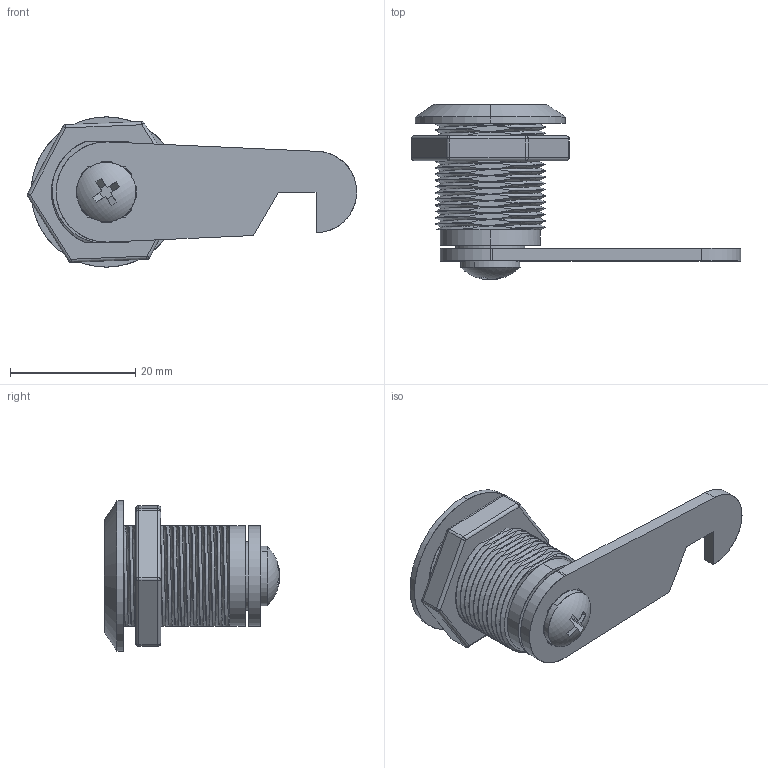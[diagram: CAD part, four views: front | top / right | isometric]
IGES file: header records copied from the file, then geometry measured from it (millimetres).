
Start section: SolidWorks IGES file using analytic representation for surfaces
Global section: file name: D:\尚坤工业图纸\SK1--门锁系列\SK1-005-2\SK1-005-2.IGS; native system: SolidWorks 2015; preprocessor: SolidWorks 2015; author: admin; date: 181101.101713; units: millimetre
Bounding box: 52.61 x 27.96 x 24 mm (x, y, z)
Surface area: 5911.6 mm2 (no closed solid volume)
Topology: 0 solids, 0 shells, 235 faces, 3334 edges, 3328 vertices
Faces by surface type: bspline 124, revolution 111
